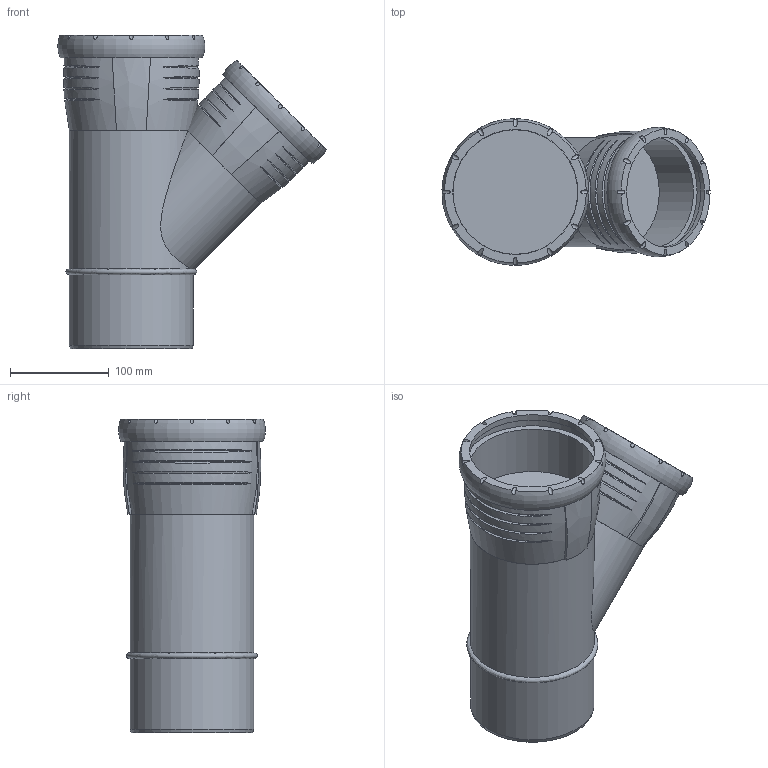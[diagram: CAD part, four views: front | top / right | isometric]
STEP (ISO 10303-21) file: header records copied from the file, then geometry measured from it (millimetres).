
FILE_DESCRIPTION(/* description */ (''),/* implementation_level */ '2;1');
FILE_NAME(/* name */ 'H:\Geberit-Teile\Export\Abzweig PP\stp\393635.stp',/* time_stamp */ '2017-02-13T13:20:00+01:00',/* author */ ('seihe2'),/* organization */ (''),/* preprocessor_version */ 'ST-DEVELOPER v15.2',/* originating_system */ 'Autodesk Inventor 2014',/* authorisation */ '');
FILE_SCHEMA (('AUTOMOTIVE_DESIGN { 1 0 10303 214 3 1 1 }'));
Length unit declared in the file: millimetre
Products named in the file (1): 393635
Bounding box: 270.94 x 148.35 x 316.91 mm (x, y, z)
Volume: 3522090.7 mm3; surface area: 366841.9 mm2
Topology: 5 solids, 5 shells, 106 faces, 246 edges, 174 vertices
Faces by surface type: bspline 45, cylinder 39, plane 19, torus 2, cone 1
Full cylindrical faces by diameter (mm): 90 x1, 95.978 x1, 111 x1, 111.3 x1, 115.2 x1, 121.5 x1, 125.2 x3, 126 x1, 126.4 x1, 138.1 x1
Entity records: 7639 total; most frequent: CARTESIAN_POINT 5466, ORIENTED_EDGE 450, DIRECTION 325, EDGE_CURVE 224, VERTEX_POINT 167, AXIS2_PLACEMENT_3D 162, EDGE_LOOP 149, B_SPLINE_CURVE_WITH_KNOTS 123
